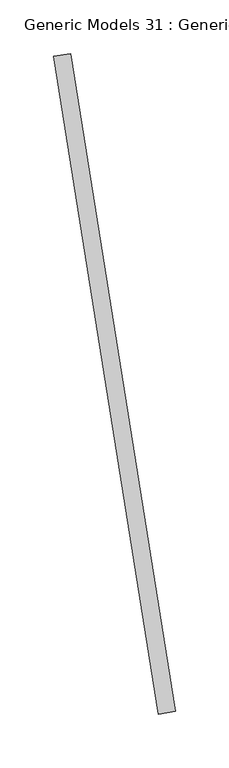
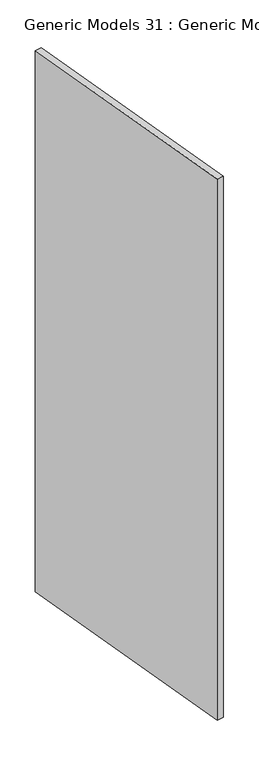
"""IFC4 building model written with IfcOpenShell, lengths in millimetres: proxy geometry, Generic Models 31 : Generic Models 31."""

from ifc_helpers import new_model, si_unit, frame, origin, place, context, project, spatial, polyline, outline, extrude, source, transform, mapped, element, save


def generic_models_31_generic_models_31_448f4125(model_context):
    return source(origin(), model_context, "Body", "SweptSolid", [
        extrude(outline(polyline([(99045.8684569, 21589.9435134), (98948.1577588, 22202.1956015), (98963.9578127, 22204.7171679), (99061.6685108, 21592.4650798), (99045.8684569, 21589.9435134)])), frame((0.0, 0.0, 210.2858362), z_axis=(0.0, 0.0, 1.0), x_axis=(1.0, 0.0, 0.0)), (0.0, 0.0, 1.0), 1420.0),
    ])


if __name__ == "__main__":
    model = new_model("IFC4")
    model_context = context("Model", 3, world=origin())
    ifc_project = project(units=[si_unit("LENGTHUNIT", "METRE", prefix="MILLI")], contexts=[model_context])
    site = spatial("IfcSite", under=ifc_project)
    building = spatial("IfcBuilding", under=site)
    placement = place(None, origin())
    generic_models_31_generic_models_31_shape = generic_models_31_generic_models_31_448f4125(model_context)
    element("IfcBuildingElementProxy", 1, Name="Generic Models 31 : Generic Models 31", ObjectType="Generic Models 31 : Generic Models 31", at=placement, inside=building, context=model_context, shape_type="MappedRepresentation", body=[
        mapped(generic_models_31_generic_models_31_shape, transform((0.0, 0.0, 0.0), x_axis=(1.0, 0.0, 0.0), y_axis=(0.0, 1.0, 0.0), z_axis=(0.0, 0.0, 1.0))),
    ])
    save(model, "model.ifc")
